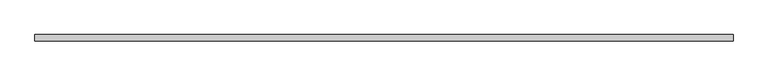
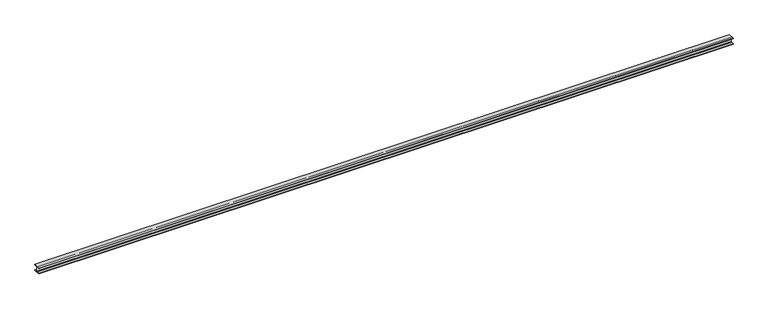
"""IFC4 building model written with IfcOpenShell, lengths in millimetres: beam geometry, Membrure Haute 45408 : Membrure Haute 45408."""

from ifc_helpers import new_model, si_unit, frame, origin, place, context, project, spatial, polyline, outline, extrude, source, transform, mapped, element, save


def beam_fdceb515(model_context):
    return source(origin(), model_context, "Body", "SweptSolid", [
        extrude(outline(polyline([(-23516.0, 11360.4485543), (-23571.25, 11360.4485543), (-23583.25, 11348.4485543), (-23583.25, 11256.4485543), (-23571.25, 11244.4485543), (-23516.0, 11244.4485543), (-23516.0, 11235.9485543), (-23656.0, 11235.9485543), (-23656.0, 11244.4485543), (-23600.75, 11244.4485543), (-23588.75, 11256.4485543), (-23588.75, 11348.4485543), (-23600.75, 11360.4485543), (-23656.0, 11360.4485543), (-23656.0, 11368.9485543), (-23516.0, 11368.9485543), (-23516.0, 11360.4485543)])), frame((-180.0000001, 0.0, 0.0), z_axis=(1.0, 0.0, 0.0), x_axis=(0.0, 1.0, 0.0)), (0.0, 0.0, 1.0), 15570.0),
    ])


if __name__ == "__main__":
    model = new_model("IFC4")
    model_context = context("Model", 3, world=origin())
    ifc_project = project(units=[si_unit("LENGTHUNIT", "METRE", prefix="MILLI")], contexts=[model_context])
    site = spatial("IfcSite", under=ifc_project)
    building = spatial("IfcBuilding", under=site)
    placement = place(None, origin())
    beam_shape = beam_fdceb515(model_context)
    element("IfcBeam", 1, ObjectType="Membrure Haute 45408 : Membrure Haute 45408", at=placement, inside=building, context=model_context, shape_type="MappedRepresentation", body=[
        mapped(beam_shape, transform((0.0, 0.0, 0.0), x_axis=(1.0, 0.0, 0.0), y_axis=(0.0, 1.0, 0.0), z_axis=(0.0, 0.0, 1.0))),
    ])
    save(model, "model.ifc")
